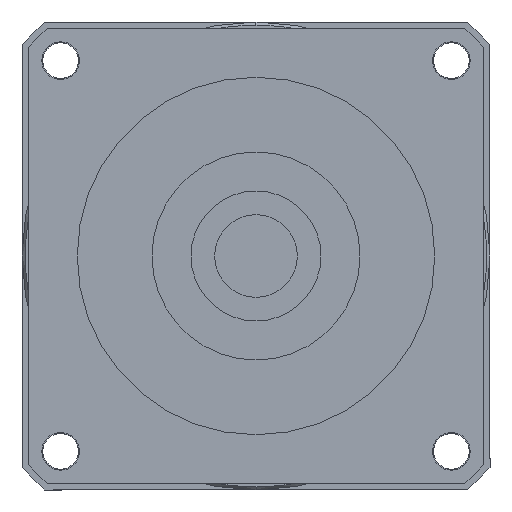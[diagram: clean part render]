
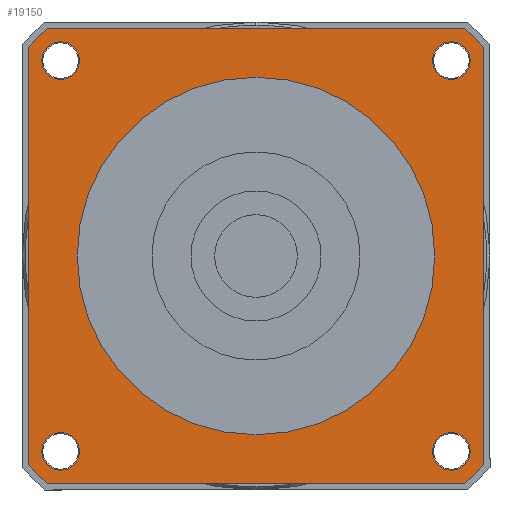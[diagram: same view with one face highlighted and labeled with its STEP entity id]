
A CAD part, left-side view. The second image highlights one B-rep face of the part: STEP entity #19150.
In plain terms, the highlighted planar face has unit normal (-1, 0, 0) as drawn and (0, 0, -1) by its records, which use the part's own axes.
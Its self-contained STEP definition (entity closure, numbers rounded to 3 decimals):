
#15250=CARTESIAN_POINT('',(-32.113,35.,-93.));
#15260=VERTEX_POINT('',#15250);
#15420=CARTESIAN_POINT('',(-35.,32.113,-93.));
#15430=VERTEX_POINT('',#15420);
#15460=CARTESIAN_POINT('',(0.,0.,
-93.));
#15470=DIRECTION('',(0.,0.,1.));
#15480=DIRECTION('',(0.,-1.,0.));
#15490=AXIS2_PLACEMENT_3D('',#15460,#15470,#15480);
#15500=CIRCLE('',#15490,47.5);
#15510=EDGE_CURVE('',#15260,#15430,#15500,.T.);
#15670=CARTESIAN_POINT('',(32.113,-35.,-93.));
#15680=VERTEX_POINT('',#15670);
#15840=CARTESIAN_POINT('',(35.,-32.113,-93.));
#15850=VERTEX_POINT('',#15840);
#15880=CARTESIAN_POINT('',(0.,0.,
-93.));
#15890=DIRECTION('',(0.,0.,1.));
#15900=DIRECTION('',(0.,-1.,0.));
#15910=AXIS2_PLACEMENT_3D('',#15880,#15890,#15900);
#15920=CIRCLE('',#15910,47.5);
#15930=EDGE_CURVE('',#15680,#15850,#15920,.T.);
#17220=CARTESIAN_POINT('',(32.113,35.,-93.));
#17230=VERTEX_POINT('',#17220);
#17360=CARTESIAN_POINT('',(35.,35.,-93.));
#17370=DIRECTION('',(-1.,0.,0.));
#17380=VECTOR('',#17370,1000.);
#17390=LINE('',#17360,#17380);
#17400=EDGE_CURVE('',#17230,#15260,#17390,.T.);
#17660=CARTESIAN_POINT('',(-35.,-32.113,-93.));
#17670=VERTEX_POINT('',#17660);
#17700=CARTESIAN_POINT('',(-35.,35.,-93.));
#17710=DIRECTION('',(0.,-1.,0.));
#17720=VECTOR('',#17710,1000.);
#17730=LINE('',#17700,#17720);
#17740=EDGE_CURVE('',#15430,#17670,#17730,.T.);
#17790=CARTESIAN_POINT('',(-35.,35.,-93.));
#17800=DIRECTION('',(0.,0.,1.));
#17810=DIRECTION('',(-1.,0.,0.));
#17820=AXIS2_PLACEMENT_3D('',#17790,#17800,#17810);
#17830=PLANE('',#17820);
#17840=CARTESIAN_POINT('',(30.052,-30.052,-93.));
#17850=DIRECTION('',(0.,0.,-1.));
#17860=DIRECTION('',(1.,0.,0.));
#17870=AXIS2_PLACEMENT_3D('',#17840,#17850,#17860);
#17880=CIRCLE('',#17870,2.9);
#17890=CARTESIAN_POINT('',(32.952,-30.052,-93.));
#17900=VERTEX_POINT('',#17890);
#17910=CARTESIAN_POINT('',(30.052,-32.952,-93.));
#17920=VERTEX_POINT('',#17910);
#17930=EDGE_CURVE('',#17900,#17920,#17880,.T.);
#17940=ORIENTED_EDGE('',*,*,#17930,.F.);
#17950=CARTESIAN_POINT('',(30.052,-27.152,-93.));
#17960=VERTEX_POINT('',#17950);
#17970=EDGE_CURVE('',#17920,#17960,#17880,.T.);
#17980=ORIENTED_EDGE('',*,*,#17970,.F.);
#17990=EDGE_CURVE('',#17960,#17900,#17880,.T.);
#18000=ORIENTED_EDGE('',*,*,#17990,.F.);
#18010=EDGE_LOOP('',(#18000,#17980,#17940));
#18020=FACE_BOUND('',#18010,.T.);
#18030=CARTESIAN_POINT('',(30.052,30.052,-93.));
#18040=DIRECTION('',(0.,0.,-1.));
#18050=DIRECTION('',(0.,1.,0.));
#18060=AXIS2_PLACEMENT_3D('',#18030,#18040,#18050);
#18070=CIRCLE('',#18060,2.9);
#18080=CARTESIAN_POINT('',(30.052,32.952,-93.));
#18090=VERTEX_POINT('',#18080);
#18100=CARTESIAN_POINT('',(32.952,30.052,-93.));
#18110=VERTEX_POINT('',#18100);
#18120=EDGE_CURVE('',#18090,#18110,#18070,.T.);
#18130=ORIENTED_EDGE('',*,*,#18120,.F.);
#18140=CARTESIAN_POINT('',(27.152,30.052,-93.));
#18150=VERTEX_POINT('',#18140);
#18160=EDGE_CURVE('',#18110,#18150,#18070,.T.);
#18170=ORIENTED_EDGE('',*,*,#18160,.F.);
#18180=EDGE_CURVE('',#18150,#18090,#18070,.T.);
#18190=ORIENTED_EDGE('',*,*,#18180,.F.);
#18200=EDGE_LOOP('',(#18190,#18170,#18130));
#18210=FACE_BOUND('',#18200,.T.);
#18220=CARTESIAN_POINT('',(-30.052,30.052,-93.));
#18230=DIRECTION('',(0.,0.,-1.));
#18240=DIRECTION('',(-1.,0.,0.));
#18250=AXIS2_PLACEMENT_3D('',#18220,#18230,#18240);
#18260=CIRCLE('',#18250,2.9);
#18270=CARTESIAN_POINT('',(-32.952,30.052,-93.));
#18280=VERTEX_POINT('',#18270);
#18290=CARTESIAN_POINT('',(-30.052,32.952,-93.));
#18300=VERTEX_POINT('',#18290);
#18310=EDGE_CURVE('',#18280,#18300,#18260,.T.);
#18320=ORIENTED_EDGE('',*,*,#18310,.F.);
#18330=CARTESIAN_POINT('',(-30.052,27.152,-93.));
#18340=VERTEX_POINT('',#18330);
#18350=EDGE_CURVE('',#18300,#18340,#18260,.T.);
#18360=ORIENTED_EDGE('',*,*,#18350,.F.);
#18370=EDGE_CURVE('',#18340,#18280,#18260,.T.);
#18380=ORIENTED_EDGE('',*,*,#18370,.F.);
#18390=EDGE_LOOP('',(#18380,#18360,#18320));
#18400=FACE_BOUND('',#18390,.T.);
#18410=CARTESIAN_POINT('',(-30.052,-30.052,-93.));
#18420=DIRECTION('',(0.,0.,-1.));
#18430=DIRECTION('',(0.,-1.,0.));
#18440=AXIS2_PLACEMENT_3D('',#18410,#18420,#18430);
#18450=CIRCLE('',#18440,2.9);
#18460=CARTESIAN_POINT('',(-30.052,-32.952,-93.));
#18470=VERTEX_POINT('',#18460);
#18480=CARTESIAN_POINT('',(-32.952,-30.052,-93.));
#18490=VERTEX_POINT('',#18480);
#18500=EDGE_CURVE('',#18470,#18490,#18450,.T.);
#18510=ORIENTED_EDGE('',*,*,#18500,.F.);
#18520=CARTESIAN_POINT('',(-27.152,-30.052,-93.));
#18530=VERTEX_POINT('',#18520);
#18540=EDGE_CURVE('',#18490,#18530,#18450,.T.);
#18550=ORIENTED_EDGE('',*,*,#18540,.F.);
#18560=EDGE_CURVE('',#18530,#18470,#18450,.T.);
#18570=ORIENTED_EDGE('',*,*,#18560,.F.);
#18580=EDGE_LOOP('',(#18570,#18550,#18510));
#18590=FACE_BOUND('',#18580,.T.);
#18600=CARTESIAN_POINT('',(0.,0.,
-93.));
#18610=DIRECTION('',(0.,0.,1.));
#18620=DIRECTION('',(0.,-1.,0.));
#18630=AXIS2_PLACEMENT_3D('',#18600,#18610,#18620);
#18640=CIRCLE('',#18630,47.5);
#18650=CARTESIAN_POINT('',(-32.113,-35.,-93.));
#18660=VERTEX_POINT('',#18650);
#18670=EDGE_CURVE('',#17670,#18660,#18640,.T.);
#18680=ORIENTED_EDGE('',*,*,#18670,.F.);
#18690=CARTESIAN_POINT('',(-35.,-35.,-93.));
#18700=DIRECTION('',(1.,0.,0.));
#18710=VECTOR('',#18700,1000.);
#18720=LINE('',#18690,#18710);
#18730=EDGE_CURVE('',#18660,#15680,#18720,.T.);
#18740=ORIENTED_EDGE('',*,*,#18730,.F.);
#18750=ORIENTED_EDGE('',*,*,#15930,.F.);
#18760=CARTESIAN_POINT('',(35.,-35.,-93.));
#18770=DIRECTION('',(0.,1.,0.));
#18780=VECTOR('',#18770,1000.);
#18790=LINE('',#18760,#18780);
#18800=CARTESIAN_POINT('',(35.,32.113,-93.));
#18810=VERTEX_POINT('',#18800);
#18820=EDGE_CURVE('',#15850,#18810,#18790,.T.);
#18830=ORIENTED_EDGE('',*,*,#18820,.F.);
#18840=CARTESIAN_POINT('',(0.,0.,
-93.));
#18850=DIRECTION('',(0.,0.,1.));
#18860=DIRECTION('',(0.,-1.,0.));
#18870=AXIS2_PLACEMENT_3D('',#18840,#18850,#18860);
#18880=CIRCLE('',#18870,47.5);
#18890=EDGE_CURVE('',#18810,#17230,#18880,.T.);
#18900=ORIENTED_EDGE('',*,*,#18890,.F.);
#18910=ORIENTED_EDGE('',*,*,#17400,.F.);
#18920=ORIENTED_EDGE('',*,*,#15510,.F.);
#18930=ORIENTED_EDGE('',*,*,#17740,.F.);
#18940=EDGE_LOOP('',(#18930,#18920,#18910,#18900,#18830,#18750,#18740,
#18680));
#18950=FACE_OUTER_BOUND('',#18940,.T.);
#18960=CARTESIAN_POINT('',(0.,0.,
-93.));
#18970=DIRECTION('',(0.,0.,1.));
#18980=DIRECTION('',(0.,-1.,0.));
#18990=AXIS2_PLACEMENT_3D('',#18960,#18970,#18980);
#19000=CIRCLE('',#18990,27.5);
#19010=CARTESIAN_POINT('',(27.5,0.,-93.));
#19020=VERTEX_POINT('',#19010);
#19030=CARTESIAN_POINT('',(-27.5,0.,-93.));
#19040=VERTEX_POINT('',#19030);
#19050=EDGE_CURVE('',#19020,#19040,#19000,.T.);
#19060=ORIENTED_EDGE('',*,*,#19050,.T.);
#19070=CARTESIAN_POINT('',(0.,-27.5,-93.));
#19080=VERTEX_POINT('',#19070);
#19090=EDGE_CURVE('',#19080,#19020,#19000,.T.);
#19100=ORIENTED_EDGE('',*,*,#19090,.T.);
#19110=EDGE_CURVE('',#19040,#19080,#19000,.T.);
#19120=ORIENTED_EDGE('',*,*,#19110,.T.);
#19130=EDGE_LOOP('',(#19120,#19100,#19060));
#19140=FACE_BOUND('',#19130,.T.);
#19150=ADVANCED_FACE('',(#18020,#18210,#18400,#18590,#18950,#19140),
#17830,.F.);
